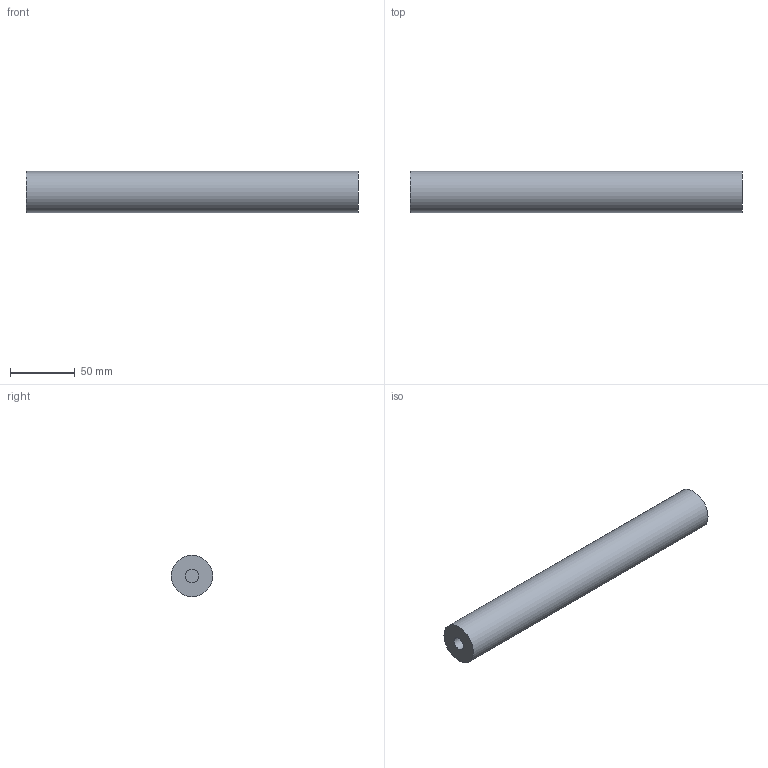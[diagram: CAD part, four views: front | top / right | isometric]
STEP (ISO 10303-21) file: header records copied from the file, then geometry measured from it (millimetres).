
FILE_DESCRIPTION(('Open CASCADE Model'),'2;1');
FILE_NAME('Open CASCADE Shape Model','2026-09-19T12:55:24',('Author'),( 'Open CASCADE'),'Open CASCADE STEP processor 7.9','Open CASCADE 7.9' ,'Unknown');
FILE_SCHEMA(('AUTOMOTIVE_DESIGN { 1 0 10303 214 1 1 1 1 }'));
Length unit declared in the file: millimetre
Products named in the file (1): Open CASCADE STEP translator 7.9 452
Bounding box: 256 x 32 x 32 mm (x, y, z)
Volume: 202128.6 mm3; surface area: 28818.5 mm2
Topology: 1 solids, 1 shells, 7 faces, 9 edges, 6 vertices
Faces by surface type: plane 4, cylinder 3
Full cylindrical faces by diameter (mm): 10.2 x2, 32 x1
Entity records: 279 total; most frequent: DIRECTION 48, CARTESIAN_POINT 47, ORIENTED_EDGE 18, PCURVE 18, DEFINITIONAL_REPRESENTATION 18, LINE 15, VECTOR 15, AXIS2_PLACEMENT_3D 14
